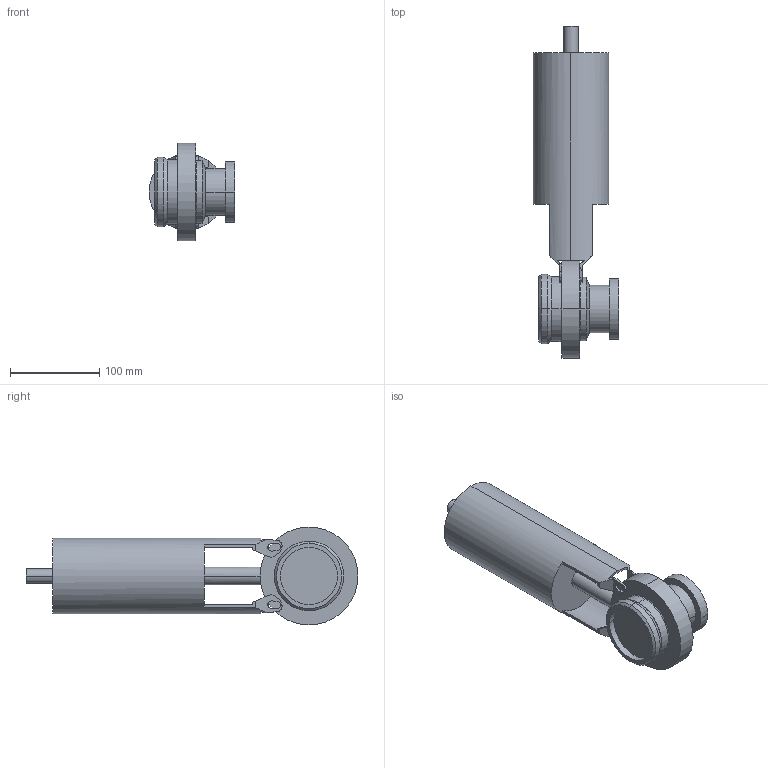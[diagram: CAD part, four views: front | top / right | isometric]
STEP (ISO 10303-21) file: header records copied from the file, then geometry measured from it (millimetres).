
FILE_DESCRIPTION(('Creo Elements/Direct Modeling STEP Export'),'2;1');
FILE_NAME('SV1-50-FZ-1K-2G.stp','2012-11-06T14:27:28',(''),(''),'Creo Elements/Direct Modeling STEP processor for AP214 (Solid Model)','Creo Elements/Direct Modeling 17.0D 15-Jul-2011 (C) Parametric Technology GmbH','');
FILE_SCHEMA(('AUTOMOTIVE_DESIGN { 1 0 10303 214 1 1 1 1 }'));
Length unit declared in the file: millimetre
Products named in the file (2): SV1-50-FZ-1K2G
Assembly tree (1 placements, depth 2):
  SV1-50-FZ-1K2G
    SV1-50-FZ-1K2G
Bounding box: 96.5 x 372.88 x 110 mm (x, y, z)
Volume: 1421786.4 mm3; surface area: 122679.9 mm2
Topology: 1 solids, 1 shells, 122 faces, 340 edges, 214 vertices
Faces by surface type: plane 73, cylinder 35, torus 8, cone 6
Entity records: 4207 total; most frequent: CARTESIAN_POINT 1158, ORIENTED_EDGE 680, DIRECTION 596, EDGE_CURVE 340, VERTEX_POINT 214, AXIS2_PLACEMENT_3D 203, VECTOR 190, LINE 190
